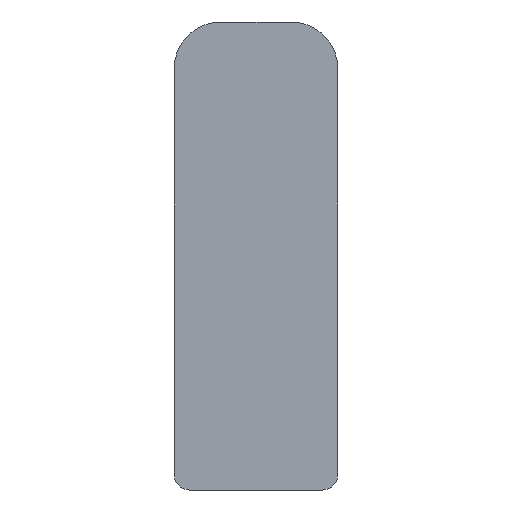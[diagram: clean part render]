
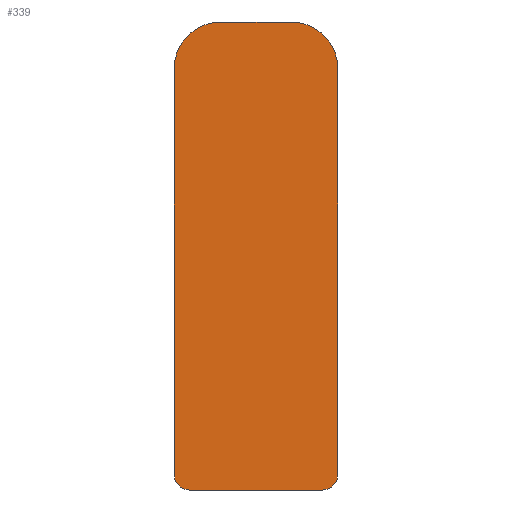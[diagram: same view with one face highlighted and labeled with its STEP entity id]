
A CAD part, left-side view. The second image highlights one B-rep face of the part: STEP entity #339.
In plain terms, the highlighted planar face has unit normal (-1, 0, 0).
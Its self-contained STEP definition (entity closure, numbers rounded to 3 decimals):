
#1 = CIRCLE ( 'NONE', #82, 3. ) ;
#11 = LINE ( 'NONE', #325, #45 ) ;
#18 = FACE_OUTER_BOUND ( 'NONE', #156, .T. ) ;
#33 = VECTOR ( 'NONE', #271, 1000. ) ;
#34 = LINE ( 'NONE', #272, #33 ) ;
#36 = CIRCLE ( 'NONE', #78, 1. ) ;
#45 = VECTOR ( 'NONE', #323, 1000. ) ;
#51 = CIRCLE ( 'NONE', #80, 1. ) ;
#58 = VECTOR ( 'NONE', #305, 1000. ) ;
#59 = LINE ( 'NONE', #306, #58 ) ;
#68 = AXIS2_PLACEMENT_3D ( 'NONE', #217, #215, #214 ) ;
#78 = AXIS2_PLACEMENT_3D ( 'NONE', #279, #278, #277 ) ;
#80 = AXIS2_PLACEMENT_3D ( 'NONE', #296, #295, #294 ) ;
#82 = AXIS2_PLACEMENT_3D ( 'NONE', #316, #315, #313 ) ;
#84 = AXIS2_PLACEMENT_3D ( 'NONE', #220, #216, #213 ) ;
#86 = EDGE_CURVE ( 'NONE', #314, #304, #118, .T. ) ;
#89 = EDGE_CURVE ( 'NONE', #324, #293, #111, .T. ) ;
#93 = EDGE_CURVE ( 'NONE', #293, #327, #11, .T. ) ;
#97 = EDGE_CURVE ( 'NONE', #327, #308, #1, .T. ) ;
#100 = EDGE_CURVE ( 'NONE', #308, #332, #59, .T. ) ;
#103 = EDGE_CURVE ( 'NONE', #332, #314, #51, .T. ) ;
#108 = EDGE_CURVE ( 'NONE', #304, #283, #36, .T. ) ;
#110 = EDGE_CURVE ( 'NONE', #283, #324, #34, .T. ) ;
#111 = CIRCLE ( 'NONE', #84, 3. ) ;
#116 = VECTOR ( 'NONE', #273, 1000. ) ;
#118 = LINE ( 'NONE', #276, #116 ) ;
#156 = EDGE_LOOP ( 'NONE', ( #166, #167, #168, #169, #170, #171, #172, #173 ) ) ;
#166 = ORIENTED_EDGE ( 'NONE', *, *, #89, .T. ) ;
#167 = ORIENTED_EDGE ( 'NONE', *, *, #93, .T. ) ;
#168 = ORIENTED_EDGE ( 'NONE', *, *, #97, .T. ) ;
#169 = ORIENTED_EDGE ( 'NONE', *, *, #100, .T. ) ;
#170 = ORIENTED_EDGE ( 'NONE', *, *, #103, .T. ) ;
#171 = ORIENTED_EDGE ( 'NONE', *, *, #86, .T. ) ;
#172 = ORIENTED_EDGE ( 'NONE', *, *, #108, .T. ) ;
#173 = ORIENTED_EDGE ( 'NONE', *, *, #110, .T. ) ;
#213 = DIRECTION ( 'NONE',  ( 0., 0., 1. ) ) ;
#214 = DIRECTION ( 'NONE',  ( 0., 0., 1. ) ) ;
#215 = DIRECTION ( 'NONE',  ( -1., 0., 0. ) ) ;
#216 = DIRECTION ( 'NONE',  ( -1., 0., 0. ) ) ;
#217 = CARTESIAN_POINT ( 'NONE',  ( -403.25, -2.25, 27. ) ) ;
#218 = PLANE ( 'NONE',  #68 ) ;
#220 = CARTESIAN_POINT ( 'NONE',  ( -403.25, -2.25, 27. ) ) ;
#247 = CARTESIAN_POINT ( 'NONE',  ( -403.25, 5.25, 1. ) ) ;
#249 = CARTESIAN_POINT ( 'NONE',  ( -403.25, 2.25, 30. ) ) ;
#250 = CARTESIAN_POINT ( 'NONE',  ( -403.25, -5.25, 27. ) ) ;
#252 = CARTESIAN_POINT ( 'NONE',  ( -403.25, 4.25, 0. ) ) ;
#254 = CARTESIAN_POINT ( 'NONE',  ( -403.25, 5.25, 27. ) ) ;
#255 = CARTESIAN_POINT ( 'NONE',  ( -403.25, -4.25, 0. ) ) ;
#258 = CARTESIAN_POINT ( 'NONE',  ( -403.25, -2.25, 30. ) ) ;
#261 = CARTESIAN_POINT ( 'NONE',  ( -403.25, -5.25, 1. ) ) ;
#271 = DIRECTION ( 'NONE',  ( 0., 0., 1. ) ) ;
#272 = CARTESIAN_POINT ( 'NONE',  ( -403.25, -5.25, 1. ) ) ;
#273 = DIRECTION ( 'NONE',  ( 0., -1., 0. ) ) ;
#276 = CARTESIAN_POINT ( 'NONE',  ( -403.25, -4.25, 0. ) ) ;
#277 = DIRECTION ( 'NONE',  ( 0., 0., -1. ) ) ;
#278 = DIRECTION ( 'NONE',  ( -1., 0., 0. ) ) ;
#279 = CARTESIAN_POINT ( 'NONE',  ( -403.25, -4.25, 1. ) ) ;
#283 = VERTEX_POINT ( 'NONE', #261 ) ;
#293 = VERTEX_POINT ( 'NONE', #258 ) ;
#294 = DIRECTION ( 'NONE',  ( 0., 0., -1. ) ) ;
#295 = DIRECTION ( 'NONE',  ( -1., 0., 0. ) ) ;
#296 = CARTESIAN_POINT ( 'NONE',  ( -403.25, 4.25, 1. ) ) ;
#304 = VERTEX_POINT ( 'NONE', #255 ) ;
#305 = DIRECTION ( 'NONE',  ( 0., 0., -1. ) ) ;
#306 = CARTESIAN_POINT ( 'NONE',  ( -403.25, 5.25, 1. ) ) ;
#308 = VERTEX_POINT ( 'NONE', #254 ) ;
#313 = DIRECTION ( 'NONE',  ( 0., 0., -1. ) ) ;
#314 = VERTEX_POINT ( 'NONE', #252 ) ;
#315 = DIRECTION ( 'NONE',  ( -1., 0., 0. ) ) ;
#316 = CARTESIAN_POINT ( 'NONE',  ( -403.25, 2.25, 27. ) ) ;
#323 = DIRECTION ( 'NONE',  ( 0., 1., 0. ) ) ;
#324 = VERTEX_POINT ( 'NONE', #250 ) ;
#325 = CARTESIAN_POINT ( 'NONE',  ( -403.25, -2.25, 30. ) ) ;
#327 = VERTEX_POINT ( 'NONE', #249 ) ;
#332 = VERTEX_POINT ( 'NONE', #247 ) ;
#339 = ADVANCED_FACE ( 'NONE', ( #18 ), #218, .T. ) ;
